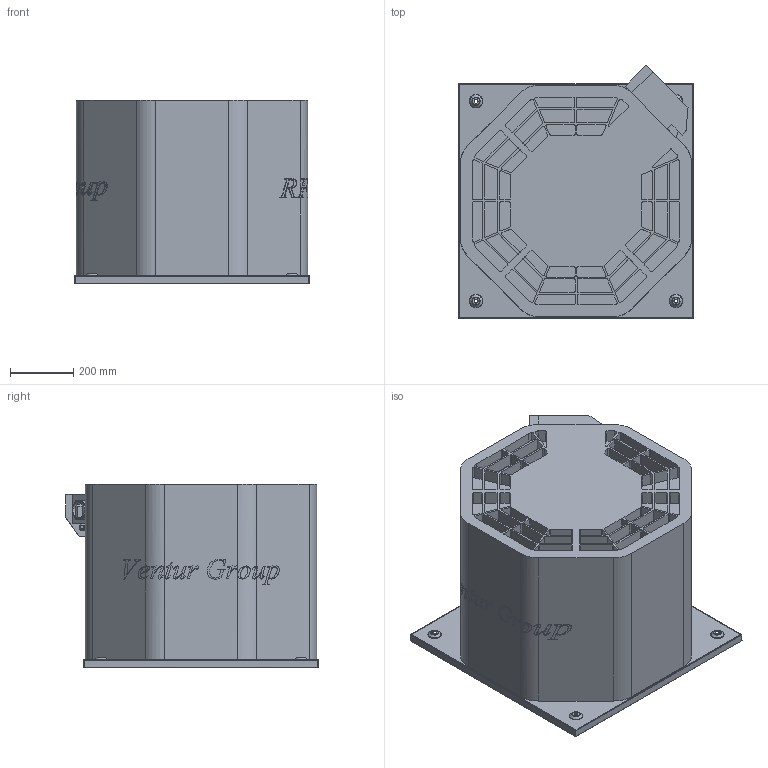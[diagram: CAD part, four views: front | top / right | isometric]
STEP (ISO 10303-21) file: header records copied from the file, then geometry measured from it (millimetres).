
FILE_DESCRIPTION(/* description */ (''),/* implementation_level */ '2;1');
FILE_NAME(/* name */ 'E:\Mariusz\Modele uproszczone\RFHT\RFHT_x_400 43534057\RFHT_x_400 43534057\RFHT_x_400 43534057.stp',/* time_stamp */ '2018-06-14T10:14:33+02:00',/* author */ ('M.Janczarek'),/* organization */ (''),/* preprocessor_version */ 'ST-DEVELOPER v16.5',/* originating_system */ 'Autodesk Inventor 2017',/* authorisation */ '');
FILE_SCHEMA (('AUTOMOTIVE_DESIGN { 1 0 10303 214 3 1 1 }'));
Products named in the file (1): RFHT_x_400 43534057
Bounding box: 740 x 797.09 x 578 mm (x, y, z)
Volume: 239402431.6 mm3; surface area: 3139426.8 mm2
Topology: 1 solids, 1 shells, 1434 faces, 3936 edges, 2601 vertices
Faces by surface type: plane 797, bspline 314, cylinder 238, cone 62, torus 23
Full cylindrical faces by diameter (mm): 4.5 x2, 6.186 x1, 12.4 x4, 13.5 x1, 17.2 x2, 19 x2, 20 x1, 23 x1, 52 x1, 55 x1, 56.5 x1, 60 x1
Entity records: 48741 total; most frequent: CARTESIAN_POINT 13596, ORIENTED_EDGE 7768, DIRECTION 6145, EDGE_CURVE 3884, VERTEX_POINT 2598, LINE 2403, VECTOR 2403, AXIS2_PLACEMENT_3D 1871
